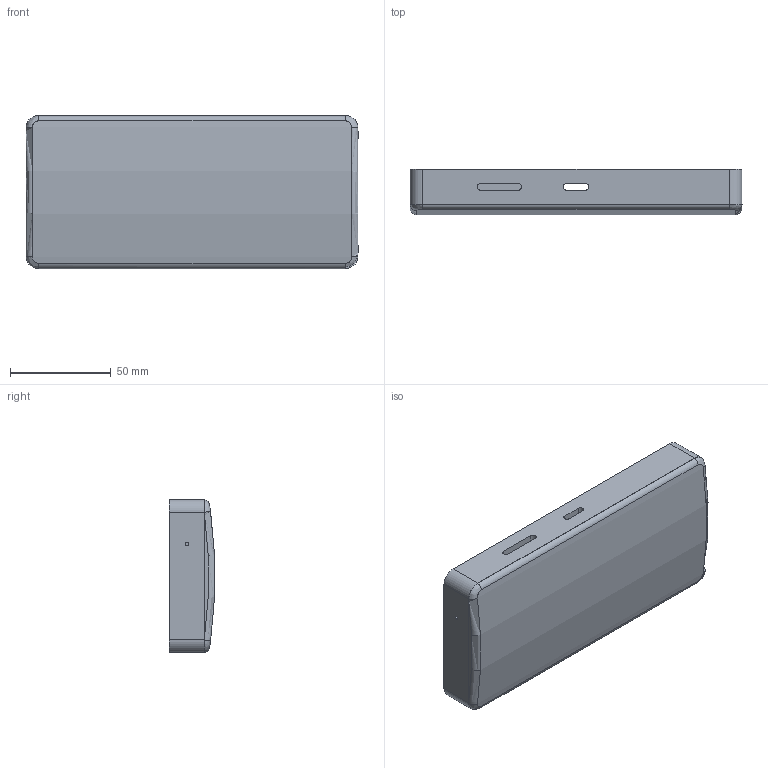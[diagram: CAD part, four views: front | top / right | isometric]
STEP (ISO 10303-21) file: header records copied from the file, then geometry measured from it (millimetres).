
FILE_DESCRIPTION (( 'STEP AP203' ), '1' );
FILE_NAME ('Phone MU 2 Assembly.STEP', '2025-12-16T02:13:43', ( '' ), ( '' ), 'SwSTEP 2.0', 'SolidWorks 2024', '' );
FILE_SCHEMA (( 'CONFIG_CONTROL_DESIGN' ));
Length unit declared in the file: inch
Products named in the file (3): Phone MU2 Front Case; Phone MU2 Back cover; Phone MU 2 Assembly
Assembly tree (2 placements, depth 2):
  Phone MU 2 Assembly
    Phone MU2 Back cover
    Phone MU2 Front Case
Bounding box: 165.1 x 22.41 x 76.2 mm (x, y, z)
Volume: 124355.6 mm3; surface area: 86139.4 mm2
Topology: 2 solids, 63 shells, 597 faces, 1350 edges, 886 vertices
Faces by surface type: plane 453, cylinder 122, torus 18, bspline 4
Entity records: 17166 total; most frequent: CARTESIAN_POINT 3278, DIRECTION 2808, ORIENTED_EDGE 2700, EDGE_CURVE 1350, VECTOR 1054, LINE 1054, VERTEX_POINT 886, AXIS2_PLACEMENT_3D 877
